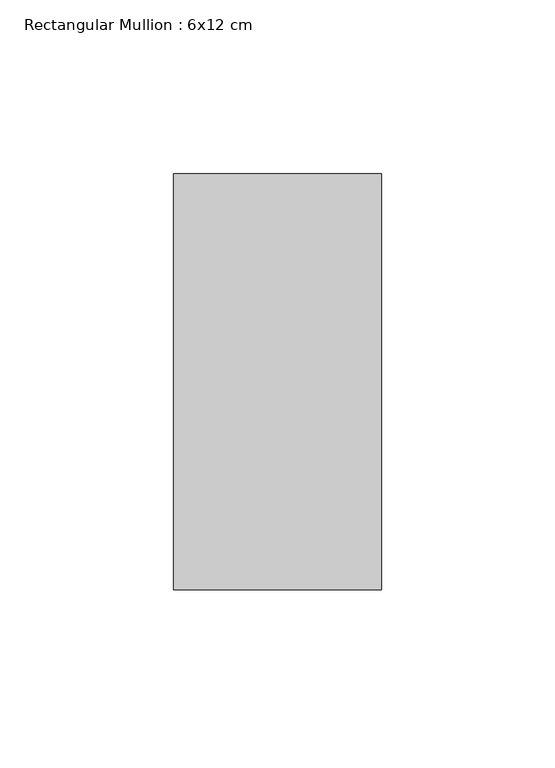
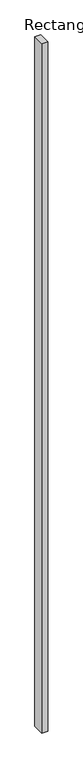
"""IFC4 building model written with IfcOpenShell, lengths in millimetres: member geometry, Rectangular Mullion : 6x12 cm."""

import ifcopenshell
import ifcopenshell.guid

model = None  # the IFC model being written
_history = None  # IfcOwnerHistory: only IFC2X3 demands one
_inside = {}  # id of a spatial element -> (the spatial element, [elements in it])
_under = {}  # id of a project, library or spatial element -> (it, [spatial elements below it])
_declared = {}  # id of a project -> (the project, [libraries it declares])
_typed = {}  # id of a type object -> (the type object, [elements of that type])
_made_of = {}  # id of a material, layer set ... -> (it, [elements and type objects made of it])


def new_model(schema):
    """Start an empty IFC model of exactly this schema.

    Asked for "IFC4X3", IfcOpenShell would pick the latest addendum, in which some entities
    have other attributes; the version numbers below select the first issue.
    IFC2X3 requires an IfcOwnerHistory on every rooted entity: one is made here for all.
    """
    global model, _history
    if schema == "IFC4X3":
        model = ifcopenshell.file(schema_version=(4, 3, 0, 0))
    else:
        model = ifcopenshell.file(schema=schema)
    _inside.clear()
    _under.clear()
    _declared.clear()
    _typed.clear()
    _made_of.clear()
    _history = None
    if model.schema == "IFC2X3":
        org = make("IfcOrganization", Name="unknown")
        user = make(
            "IfcPersonAndOrganization",
            ThePerson=make("IfcPerson", FamilyName="unknown"),
            TheOrganization=org,
        )
        app = make(
            "IfcApplication",
            ApplicationDeveloper=org,
            Version="unknown",
            ApplicationFullName="unknown",
            ApplicationIdentifier="unknown",
        )
        _history = make(
            "IfcOwnerHistory",
            OwningUser=user,
            OwningApplication=app,
            ChangeAction="ADDED",
            CreationDate=0,
        )
    return model


def make(cls, **values):
    """One entity of the class cls with the attributes given. An attribute that is None is left unset."""
    return model.create_entity(
        cls, **{name: value for name, value in values.items() if value is not None}
    )


def rooted(cls, **values):
    """An entity with a GlobalId (a new one), such as an element, a storey or a relation."""
    return make(cls, GlobalId=ifcopenshell.guid.new(), OwnerHistory=_history, **values)


def si_unit(unit_type, name, prefix=None):
    """IfcSIUnit, for example si_unit("LENGTHUNIT", "METRE", prefix="MILLI")."""
    return make("IfcSIUnit", UnitType=unit_type, Prefix=prefix, Name=name)


def assignment(units):
    """IfcUnitAssignment: the units of a project."""
    return None if units is None else make("IfcUnitAssignment", Units=units)


def point(xyz):
    """IfcCartesianPoint."""
    return None if xyz is None else make("IfcCartesianPoint", Coordinates=xyz)


def direction(xyz):
    """IfcDirection."""
    return None if xyz is None else make("IfcDirection", DirectionRatios=xyz)


def frame(location, z_axis=None, x_axis=None):
    """IfcAxis2Placement3D, a coordinate frame: its origin and axes. An axis left out is left unset."""
    return make(
        "IfcAxis2Placement3D",
        Location=point(location),
        Axis=direction(z_axis),
        RefDirection=direction(x_axis),
    )


def origin():
    """The frame at (0, 0, 0) with its axes left unset."""
    return frame((0.0, 0.0, 0.0))


def place(relative_to, where):
    """IfcLocalPlacement: puts the frame where relative to a parent placement (None: the world)."""
    return make(
        "IfcLocalPlacement", PlacementRelTo=relative_to, RelativePlacement=where
    )


def context(
    kind, dimensions, precision=None, world=None, true_north=None, identifier=None
):
    """IfcGeometricRepresentationContext, for example the 3D "Model" context."""
    return make(
        "IfcGeometricRepresentationContext",
        ContextIdentifier=identifier,
        ContextType=kind,
        CoordinateSpaceDimension=dimensions,
        Precision=precision,
        WorldCoordinateSystem=world,
        TrueNorth=true_north,
    )


def project(units=None, contexts=None):
    """IfcProject with its units and contexts."""
    return rooted(
        "IfcProject",
        Name="project",
        RepresentationContexts=contexts,
        UnitsInContext=assignment(units),
    )


def spatial(cls, under=None, at=None, **own):
    """A site, building, storey or space (cls), placed at a placement, below another one or the project."""
    s = rooted(cls, ObjectPlacement=at, **own)
    if under is not None:
        _under.setdefault(under.id(), (under, []))[1].append(s)
    return s


def polyline(points):
    """IfcPolyline through the points."""
    return make("IfcPolyline", Points=[point(p) for p in points])


def outline(outer, holes=None, kind="AREA"):
    """IfcArbitraryClosedProfileDef: a profile drawn as a closed curve; with holes, ...WithVoids."""
    if holes is None:
        return make("IfcArbitraryClosedProfileDef", ProfileType=kind, OuterCurve=outer)
    return make(
        "IfcArbitraryProfileDefWithVoids",
        ProfileType=kind,
        OuterCurve=outer,
        InnerCurves=holes,
    )


def extrude(swept, where, along, depth):
    """IfcExtrudedAreaSolid: the profile swept, set in the frame where, extruded along a direction by depth."""
    return make(
        "IfcExtrudedAreaSolid",
        SweptArea=swept,
        Position=where,
        ExtrudedDirection=direction(along),
        Depth=depth,
    )


def shape(context_of_items, identifier, shape_type, items):
    """IfcShapeRepresentation: the items that make up one representation, for example the "Body"."""
    return make(
        "IfcShapeRepresentation",
        ContextOfItems=context_of_items,
        RepresentationIdentifier=identifier,
        RepresentationType=shape_type,
        Items=items,
    )


def source(mapping_origin, context_of_items, identifier, shape_type, items):
    """IfcRepresentationMap: a shape defined once, which mapped items show again and again."""
    return make(
        "IfcRepresentationMap",
        MappingOrigin=mapping_origin,
        MappedRepresentation=shape(context_of_items, identifier, shape_type, items),
    )


def transform(
    local_origin,
    x_axis=None,
    y_axis=None,
    z_axis=None,
    scale=None,
    scale2=None,
    scale3=None,
    uniform=True,
):
    """IfcCartesianTransformationOperator3D, or its non-uniform kind. x_axis, y_axis, z_axis: its Axis1, 2, 3."""
    if uniform:
        return make(
            "IfcCartesianTransformationOperator3D",
            Axis1=direction(x_axis),
            Axis2=direction(y_axis),
            LocalOrigin=point(local_origin),
            Scale=scale,
            Axis3=direction(z_axis),
        )
    return make(
        "IfcCartesianTransformationOperator3DnonUniform",
        Axis1=direction(x_axis),
        Axis2=direction(y_axis),
        LocalOrigin=point(local_origin),
        Scale=scale,
        Axis3=direction(z_axis),
        Scale2=scale2,
        Scale3=scale3,
    )


def mapped(mapping_source, mapping_target):
    """IfcMappedItem: shows the shape of a source again, moved by a transform."""
    return make(
        "IfcMappedItem", MappingSource=mapping_source, MappingTarget=mapping_target
    )


def made_of(thing, what):
    """Note that an element or type object is made of a material, layer set ...; save() writes the relation."""
    if what is not None:
        _made_of.setdefault(what.id(), (what, []))[1].append(thing)
    return thing


def element(
    cls,
    number,
    at=None,
    inside=None,
    cuts=None,
    type_object=None,
    material=None,
    context=None,
    identifier="Body",
    shape_type=None,
    held_by="IfcProductDefinitionShape",
    body=None,
    shapes=None,
    **own,
):
    """One element of the class cls, such as IfcWall. Its Tag is "e" and its number.

    at: its placement. inside: the storey or other place that contains it. cuts: it is an
    opening in that element (IfcRelVoidsElement). A single representation is given by context,
    identifier, shape_type and body (its items); several are given by shapes. held_by: the class
    of the entity that holds the representations. save() writes the other relations.
    """
    e = rooted(cls, Tag="e%d" % number, ObjectPlacement=at, **own)
    if body is not None:
        shapes = [shape(context, identifier, shape_type, body)]
    if shapes is not None:
        e.Representation = make(held_by, Representations=shapes)
    if inside is not None:
        _inside.setdefault(inside.id(), (inside, []))[1].append(e)
    if cuts is not None:
        rooted(
            "IfcRelVoidsElement", RelatingBuildingElement=cuts, RelatedOpeningElement=e
        )
    if type_object is not None:
        _typed.setdefault(type_object.id(), (type_object, []))[1].append(e)
    return made_of(e, material)


def aggregate(whole, parts):
    """IfcRelAggregates: a whole, such as a stair, and the parts it consists of."""
    return rooted("IfcRelAggregates", RelatingObject=whole, RelatedObjects=parts)


def save(model, path):
    """Write the relations noted so far, then the file.

    IfcRelAggregates (storeys below a building ...), IfcRelContainedInSpatialStructure (elements
    in a storey), IfcRelDefinesByType, IfcRelAssociatesMaterial and IfcRelDeclares: one each for
    every whole, place, type object, material and project.
    """
    for whole, parts in _under.values():
        aggregate(whole, parts)
    for where, things in _inside.values():
        rooted(
            "IfcRelContainedInSpatialStructure",
            RelatedElements=things,
            RelatingStructure=where,
        )
    for kind, things in _typed.values():
        rooted("IfcRelDefinesByType", RelatedObjects=things, RelatingType=kind)
    for what, things in _made_of.values():
        rooted("IfcRelAssociatesMaterial", RelatedObjects=things, RelatingMaterial=what)
    for by, libraries in _declared.values():
        rooted("IfcRelDeclares", RelatingContext=by, RelatedDefinitions=libraries)
    model.write(path)


def rectangular_mullion_6x12_cm_35090a97(model_context):
    return source(origin(), model_context, "Body", "SweptSolid", [
        extrude(outline(polyline([(30.0, 205.0), (30.0, 85.0), (-30.0, 85.0), (-30.0, 205.0), (30.0, 205.0)])), frame((0.0, 0.0, -7405.4369243), z_axis=(0.0, 0.0, 1.0), x_axis=(1.0, 0.0, 0.0)), (0.0, 0.0, 1.0), 7405.4369243),
    ])


if __name__ == "__main__":
    model = new_model("IFC4")
    model_context = context("Model", 3, world=origin())
    ifc_project = project(units=[si_unit("LENGTHUNIT", "METRE", prefix="MILLI")], contexts=[model_context])
    site = spatial("IfcSite", under=ifc_project)
    building = spatial("IfcBuilding", under=site)
    placement = place(None, origin())
    rectangular_mullion_6x12_cm_shape = rectangular_mullion_6x12_cm_35090a97(model_context)
    element("IfcMember", 1, ObjectType="Rectangular Mullion : 6x12 cm", at=placement, inside=building, context=model_context, shape_type="MappedRepresentation", body=[
        mapped(rectangular_mullion_6x12_cm_shape, transform((0.0, 0.0, 0.0), x_axis=(1.0, 0.0, 0.0), y_axis=(0.0, 1.0, 0.0), z_axis=(0.0, 0.0, 1.0))),
    ])
    save(model, "model.ifc")
